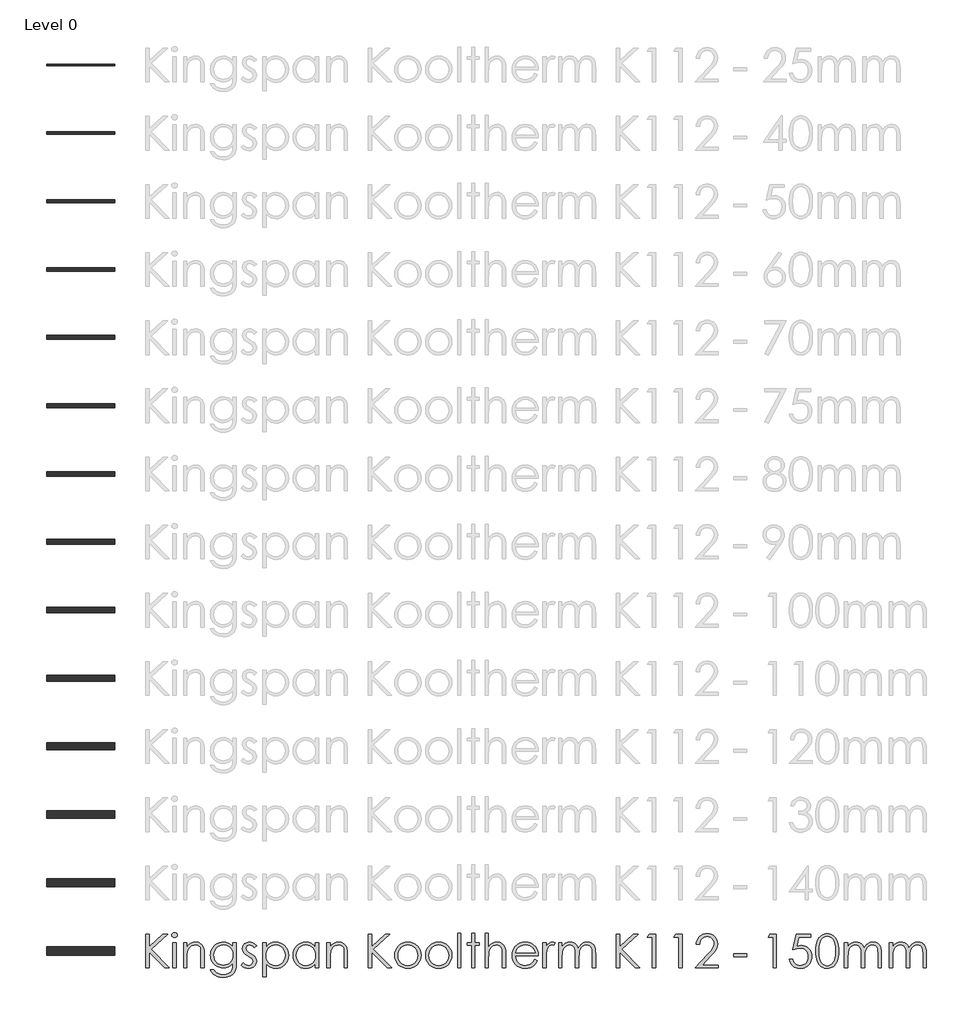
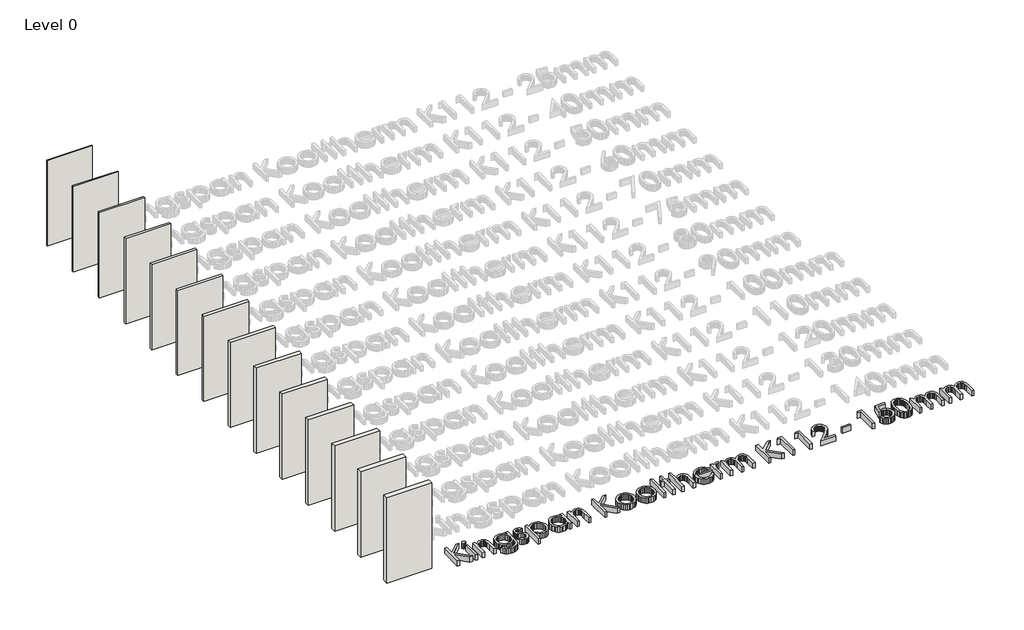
# One storey, part 1 of 14: 14 walls, 1 proxy.
"""IFC4 building model written with IfcOpenShell, lengths in millimetres."""

from ifc_helpers import new_model, si_unit, origin, origin_with_axes, place, context, project, spatial, polyline, outline, extrude, element, save

model = new_model("IFC4")

# Units and contexts
model_context = context("Model", 3, world=origin())
ifc_project = project(units=[si_unit("LENGTHUNIT", "METRE", prefix="MILLI")], contexts=[model_context])

# Site, building, storey
site = spatial("IfcSite", under=ifc_project)
building = spatial("IfcBuilding", under=site)
storey = spatial("IfcBuildingStorey", under=building, Name="Level 0", Elevation=0.0)

# Proxy
placement = place(None, origin())
element("IfcBuildingElementProxy", 1, Name="600mm KI_CenturyGothic", ObjectType="600mm KI_CenturyGothic", at=placement, inside=storey, context=model_context, shape_type="SweptSolid", body=[
    extrude(outline(polyline([(-3852.2663848, -9699.1034017), (-3792.944575, -9699.1034017), (-3792.944575, -9918.316027), (-3555.1938841, -9699.1034017), (-3471.6181051, -9699.1034017), (-3760.9664119, -9966.0515459), (-3441.9572002, -10292.3214999), (-3520.8984627, -10292.3214999), (-3792.944575, -10014.0960325), (-3792.944575, -10292.3214999), (-3852.2663848, -10292.3214999), (-3852.2663848, -9699.1034017)])), origin_with_axes(), (0.0, 0.0, 1.0), 150.0),
    extrude(outline(polyline([(-3348.1854852, -9669.4424967), (-3329.145347, -9672.7252792), (-3313.1176445, -9682.5736265), (-3302.226531, -9697.0178693), (-3298.5961598, -9714.088338), (-3302.226531, -9730.9270809), (-3313.1176445, -9745.2940817), (-3329.145347, -9755.142429), (-3348.1854852, -9758.4252115), (-3366.9938975, -9755.142429), (-3382.9443581, -9745.2940817), (-3393.8354717, -9730.9270809), (-3397.4658428, -9714.088338), (-3393.8354717, -9697.0178693), (-3382.9443581, -9682.5736265), (-3366.9938975, -9672.7252792), (-3348.1854852, -9669.4424967)])), origin_with_axes(), (0.0, 0.0, 1.0), 150.0),
    extrude(outline(polyline([(-3377.6919062, -9847.4079262), (-3318.3700964, -9847.4079262), (-3318.3700964, -10292.3214999), (-3377.6919062, -10292.3214999), (-3377.6919062, -9847.4079262)])), origin_with_axes(), (0.0, 0.0, 1.0), 150.0),
    extrude(outline(polyline([(-3189.8395084, -9847.4079262), (-3130.5176986, -9847.4079262), (-3130.5176986, -9926.5036726), (-3096.9946967, -9886.9944204), (-3060.0730495, -9859.303185), (-3019.7141359, -9842.9665147), (-2975.879335, -9837.5209579), (-2953.4357238, -9839.0995901), (-2932.2955704, -9843.8354865), (-2912.4588747, -9851.7286472), (-2893.9256368, -9862.7790723), (-2877.212412, -9876.5039994), (-2862.835756, -9892.4206667), (-2841.0921499, -9930.8292213), (-2833.6238199, -9955.2087086), (-2828.2892984, -9985.5551357), (-2824.0216812, -10064.1488095), (-2824.0216812, -10292.3214999), (-2883.343491, -10292.3214999), (-2883.343491, -10079.1337458), (-2883.343491, -9976.092998), (-2884.7290183, -9955.2956057), (-2889.8125035, -9937.2403023), (-2898.2849788, -9921.9270877), (-2910.1464442, -9909.355962), (-2924.7403432, -9899.5558909), (-2941.4101193, -9892.5558401), (-2980.977303, -9886.9557994), (-3005.3471351, -9889.1137461), (-3028.4038541, -9895.5875862), (-3050.1474602, -9906.3773197), (-3070.5779533, -9921.4829466), (-3088.6622225, -9939.7651482), (-3103.3671568, -9960.084606), (-3114.6927562, -9982.44132), (-3122.6390208, -10006.8352901), (-3128.5480292, -10053.9142525), (-3130.5176986, -10128.4141035), (-3130.5176986, -10292.3214999), (-3189.8395084, -10292.3214999), (-3189.8395084, -9847.4079262)])), origin_with_axes(), (0.0, 0.0, 1.0), 150.0),
    extrude(outline(polyline([(-2319.7862977, -9847.4079262), (-2260.4644879, -9847.4079262), (-2260.4644879, -10198.395301), (-2264.5196897, -10278.6496765), (-2269.588692, -10309.4499001), (-2276.6852953, -10334.0321474), (-2289.9371156, -10362.6454585), (-2307.2924139, -10387.7732271), (-2328.7511904, -10409.4154531), (-2354.3134448, -10427.5721366), (-2383.3226209, -10441.9343098), (-2415.122162, -10452.1930049), (-2449.7120682, -10458.348222), (-2487.0923395, -10460.3999611), (-2541.0458345, -10456.3833802), (-2589.206184, -10444.3336376), (-2630.260275, -10425.5059147), (-2662.8949946, -10401.1553932), (-2690.2000204, -10367.8061856), (-2715.2650299, -10321.9824048), (-2655.94322, -10321.9824048), (-2642.4355358, -10343.151524), (-2627.0933555, -10361.3951046), (-2609.9166791, -10376.7131468), (-2590.9055067, -10389.1056506), (-2569.7894914, -10398.6691682), (-2546.2982864, -10405.5002523), (-2492.1903075, -10410.9651195), (-2438.5071593, -10405.6354257), (-2415.083541, -10398.9733084), (-2393.93856, -10389.6463441), (-2359.6624492, -10365.6047903), (-2336.8567664, -10336.1176798), (-2329.3884364, -10317.4782342), (-2324.0539149, -10293.7697863), (-2319.7862977, -10231.1458835), (-2319.7862977, -10208.4367532), (-2354.757586, -10244.2190818), (-2396.6420279, -10270.6165148), (-2443.392712, -10286.8952536), (-2492.9627269, -10292.3214999), (-2522.4063889, -10290.4242447), (-2550.9521133, -10284.7324793), (-2578.5999001, -10275.2462036), (-2605.3497494, -10261.9654175), (-2630.1540674, -10245.4742634), (-2651.9652601, -10226.3568832), (-2670.7833277, -10204.6132772), (-2686.6082702, -10180.2434451), (-2699.1456025, -10153.9280817), (-2708.1008399, -10126.3478816), (-2713.4739824, -10097.5028447), (-2715.2650299, -10067.392971), (-2713.3967404, -10037.1044753), (-2707.7918722, -10007.8780563), (-2698.4504251, -9979.713714), (-2685.3723991, -9952.6114483), (-2668.9971079, -9927.4257483), (-2649.7638648, -9905.0111029), (-2627.67267, -9885.367512), (-2602.7235235, -9868.4949758), (-2575.9833294, -9854.943843), (-2548.5189922, -9845.2644624), (-2520.3305117, -9839.456834), (-2491.4178881, -9837.5209579), (-2444.5320306, -9842.4644421), (-2400.8903346, -9857.2948945), (-2359.6045177, -9883.8661218), (-2319.7862977, -9924.0319306), (-2319.7862977, -9847.4079262)]), holes=[polyline([(-2484.1571458, -9886.9557994), (-2529.0154023, -9892.9806707), (-2570.5908765, -9911.0552847), (-2606.2187212, -9939.7699758), (-2633.2340897, -9977.7150788), (-2650.2659375, -10021.9940208), (-2655.94322, -10069.7102292), (-2653.0080263, -10105.6229036), (-2644.2024452, -10138.2817613), (-2629.5264766, -10167.6868023), (-2608.9801206, -10193.8380266), (-2583.7606272, -10215.296803), (-2555.0652466, -10230.6245004), (-2522.8939786, -10239.8211189), (-2487.2468234, -10242.8866584), (-2451.3244937, -10239.845257), (-2419.1001219, -10230.7210528), (-2390.573708, -10215.5140459), (-2365.7452519, -10194.2242363), (-2345.6382095, -10167.9812872), (-2331.2760363, -10137.9148621), (-2322.6587323, -10104.024961), (-2319.7862977, -10066.3115838), (-2325.0773706, -10017.6105407), (-2340.9505892, -9974.3936754), (-2366.4983608, -9938.1672056), (-2400.8130926, -9910.4373492), (-2440.9982119, -9892.8261869), (-2484.1571458, -9886.9557994)])]), origin_with_axes(), (0.0, 0.0, 1.0), 150.0),
    extrude(outline(polyline([(-1904.5336289, -9898.6965743), (-1940.9918246, -9936.390641), (-1962.9575012, -9914.7628978), (-1984.6721416, -9899.3145098), (-2006.1357456, -9890.045477), (-2027.3483133, -9886.9557994), (-2052.181597, -9891.6289368), (-2073.2300256, -9905.6483489), (-2087.5970264, -9925.8857371), (-2092.3860267, -9949.212803), (-2088.4466878, -9970.7633042), (-2076.628671, -9991.2324183), (-2052.0657341, -10013.400855), (-2010.2006027, -10039.122421), (-1958.3326401, -10071.9888664), (-1939.8428507, -10087.8138088), (-1926.315856, -10103.2332311), (-1909.9791857, -10135.9065716), (-1904.5336289, -10172.4420092), (-1906.9474396, -10198.5884059), (-1914.1888714, -10222.6492701), (-1926.2579245, -10244.624602), (-1943.1545989, -10264.5144015), (-1963.6719892, -10281.0055557), (-1986.6031901, -10292.7849515), (-2011.9482016, -10299.852589), (-2039.7070237, -10302.2084682), (-2077.4397114, -10298.3270607), (-2113.3958344, -10286.6828383), (-2145.4512394, -10268.2027042), (-2171.4817731, -10243.8135617), (-2135.7959969, -10203.3387852), (-2114.0041146, -10224.9665283), (-2091.5749863, -10240.4149163), (-2068.5086121, -10249.6839491), (-2044.8049918, -10252.7736267), (-2013.637869, -10247.1349651), (-1987.4914724, -10230.2189802), (-1969.7644472, -10205.6560434), (-1963.8554388, -10177.0765256), (-1967.7561567, -10153.2860081), (-1979.4583106, -10132.2762005), (-2005.0253927, -10110.5712154), (-2050.2119275, -10083.7682622), (-2099.762632, -10053.1032121), (-2117.441381, -10037.9444814), (-2130.3890611, -10022.9016136), (-2146.3781427, -9990.7689666), (-2151.7078365, -9954.310771), (-2149.5305794, -9930.2643896), (-2142.9988078, -9908.3325063), (-2132.1125219, -9888.5151211), (-2116.8717217, -9870.812234), (-2098.309518, -9856.2473007), (-2077.4590218, -9845.8437769), (-2054.3202332, -9839.6016627), (-2028.8931521, -9837.5209579), (-1997.9481, -9841.3444339), (-1966.9064954, -9852.814862), (-1935.7683384, -9871.9322421), (-1904.5336289, -9898.6965743)])), origin_with_axes(), (0.0, 0.0, 1.0), 150.0),
    extrude(outline(polyline([(-1795.7769776, -9847.4079262), (-1736.4551678, -9847.4079262), (-1736.4551678, -9928.5119631), (-1700.9238754, -9888.2689124), (-1660.4490989, -9859.9211205), (-1614.9922173, -9843.1209986), (-1564.5146096, -9837.5209579), (-1520.0618732, -9841.7596094), (-1478.9305402, -9854.4755637), (-1441.1206107, -9875.668821), (-1406.6320845, -9905.3393811), (-1377.9077381, -9940.9768811), (-1357.3903478, -9980.070958), (-1345.0799137, -10022.6216116), (-1340.9764356, -10068.628842), (-1345.0412927, -10115.5291824), (-1357.235864, -10158.7508754), (-1377.5601494, -10198.293921), (-1406.014149, -10234.1583192), (-1440.2130179, -10263.9302594), (-1477.7719111, -10285.1959309), (-1518.6908288, -10297.9553339), (-1562.9697708, -10302.2084682), (-1612.6170277, -10296.743601), (-1658.0545988, -10280.3489992), (-1699.3211052, -10253.1019049), (-1736.4551678, -10215.07956), (-1736.4551678, -10450.5129928), (-1795.7769776, -10450.5129928), (-1795.7769776, -9847.4079262)]), holes=[polyline([(-1568.5311905, -9886.9557994), (-1602.5852307, -9890.2530647), (-1633.8392507, -9900.1448607), (-1662.2932503, -9916.6311872), (-1687.9472295, -9939.7120444), (-1709.1694525, -9967.6977647), (-1724.3281832, -9998.8986808), (-1733.4234216, -10033.3147926), (-1736.4551678, -10070.9461002), (-1731.048232, -10119.8016272), (-1714.8274246, -10163.4819442), (-1688.5265441, -10200.3263495), (-1652.8793888, -10228.6741414), (-1611.4390881, -10246.7487554), (-1567.7587711, -10252.7736267), (-1525.0632888, -10246.7101344), (-1485.0326535, -10228.5196576), (-1450.2544701, -10199.4187567), (-1423.3163435, -10160.6239924), (-1406.05277, -10115.9588407), (-1400.2982454, -10069.2467775), (-1405.9948385, -10022.3029886), (-1423.0846177, -9977.8695627), (-1449.8103289, -9939.5189395), (-1484.414718, -9910.8235589), (-1524.7157001, -9892.9227393), (-1568.5311905, -9886.9557994)])]), origin_with_axes(), (0.0, 0.0, 1.0), 150.0),
    extrude(outline(polyline([(-807.0801472, -9847.4079262), (-807.0801472, -10292.3214999), (-866.401957, -10292.3214999), (-866.401957, -10216.4699149), (-903.4780882, -10254.3184655), (-944.8797679, -10281.0441767), (-990.4525125, -10296.9173953), (-1040.0418379, -10302.2084682), (-1084.3159523, -10297.9553339), (-1125.2203871, -10285.1959309), (-1162.7551422, -10263.9302594), (-1196.9202178, -10234.1583192), (-1225.340424, -10198.293921), (-1245.6405713, -10158.7508754), (-1257.8206597, -10115.5291824), (-1261.8806892, -10068.628842), (-1257.7820388, -10022.6216116), (-1245.4860875, -9980.070958), (-1224.9928353, -9940.9768811), (-1196.3022822, -9905.3393811), (-1161.8475494, -9875.668821), (-1124.061758, -9854.4755637), (-1082.9449079, -9841.7596094), (-1038.4969991, -9837.5209579), (-987.7490446, -9843.1209986), (-942.0990581, -9859.9211205), (-921.2051134, -9872.6081091), (-901.6242816, -9888.2689124), (-866.401957, -9928.5119631), (-866.401957, -9847.4079262), (-807.0801472, -9847.4079262)]), holes=[polyline([(-1034.3259343, -9886.9557994), (-1078.1414247, -9892.9227393), (-1118.4424068, -9910.8235589), (-1153.0467959, -9939.5189395), (-1179.7725071, -9977.8695627), (-1196.8622863, -10022.3029886), (-1202.5588794, -10069.2467775), (-1196.8043548, -10115.9588407), (-1179.5407813, -10160.6239924), (-1152.6026548, -10199.4187567), (-1117.8244713, -10228.5196576), (-1077.6779731, -10246.7101344), (-1034.6349021, -10252.7736267), (-991.0125165, -10246.7487554), (-949.7460102, -10228.6741414), (-914.2726493, -10200.3263495), (-888.0297002, -10163.4819442), (-871.8088928, -10119.8016272), (-866.401957, -10070.9461002), (-869.4337032, -10033.3147926), (-878.5289416, -9998.8986808), (-893.6876723, -9967.6977647), (-914.9098953, -9939.7120444), (-940.5638746, -9916.6311872), (-969.0178742, -9900.1448607), (-1000.2718941, -9890.2530647), (-1034.3259343, -9886.9557994)])]), origin_with_axes(), (0.0, 0.0, 1.0), 150.0),
    extrude(outline(polyline([(-668.662591, -9847.4079262), (-609.3407811, -9847.4079262), (-609.3407811, -9926.5036726), (-575.8177792, -9886.9944204), (-538.896132, -9859.303185), (-498.5372184, -9842.9665147), (-454.7024175, -9837.5209579), (-432.2588064, -9839.0995901), (-411.1186529, -9843.8354865), (-391.2819572, -9851.7286472), (-372.7487193, -9862.7790723), (-356.0354946, -9876.5039994), (-341.6588385, -9892.4206667), (-319.9152324, -9930.8292213), (-312.4469024, -9955.2087086), (-307.1123809, -9985.5551357), (-302.8447637, -10064.1488095), (-302.8447637, -10292.3214999), (-362.1665735, -10292.3214999), (-362.1665735, -10079.1337458), (-362.1665735, -9976.092998), (-363.5521008, -9955.2956057), (-368.635586, -9937.2403023), (-377.1080613, -9921.9270877), (-388.9695267, -9909.355962), (-403.5634257, -9899.5558909), (-420.2332018, -9892.5558401), (-459.8003855, -9886.9557994), (-484.1702176, -9889.1137461), (-507.2269366, -9895.5875862), (-528.9705427, -9906.3773197), (-549.4010358, -9921.4829466), (-567.485305, -9939.7651482), (-582.1902393, -9960.084606), (-593.5158387, -9982.44132), (-601.4621033, -10006.8352901), (-607.3711117, -10053.9142525), (-609.3407811, -10128.4141035), (-609.3407811, -10292.3214999), (-668.662591, -10292.3214999), (-668.662591, -9847.4079262)])), origin_with_axes(), (0.0, 0.0, 1.0), 150.0),
    extrude(outline(polyline([(62.9730635, -9699.1034017), (122.2948734, -9699.1034017), (122.2948734, -9918.316027), (360.0455643, -9699.1034017), (443.6213432, -9699.1034017), (154.2730365, -9966.0515459), (473.2822481, -10292.3214999), (394.3409856, -10292.3214999), (122.2948734, -10014.0960325), (122.2948734, -10292.3214999), (62.9730635, -10292.3214999), (62.9730635, -9699.1034017)])), origin_with_axes(), (0.0, 0.0, 1.0), 150.0),
    extrude(outline(polyline([(760.1588128, -9837.5209579), (809.4681362, -9842.1458191), (854.3553585, -9856.0204025), (894.8204798, -9879.1447083), (930.8635, -9911.5187363), (957.7630055, -9946.7507161), (976.9769381, -9985.091684), (988.5052976, -10026.54164), (992.3480841, -10071.1005841), (988.283227, -10115.9153921), (976.0886558, -10157.8239721), (955.7643703, -10196.8263241), (927.3103707, -10232.9224481), (892.4742558, -10263.2350819), (853.0036246, -10284.8869632), (808.8984769, -10297.8780919), (760.1588128, -10302.2084682), (711.2839754, -10297.8780919), (667.0822753, -10284.8869632), (627.5537126, -10263.2350819), (592.6982872, -10232.9224481), (564.2442876, -10196.8263241), (543.9200022, -10157.8239721), (531.7254309, -10115.9153921), (527.6605738, -10071.1005841), (531.5033603, -10026.7347449), (543.0317198, -9985.4006518), (562.2456524, -9947.0983049), (589.145158, -9911.8277041), (625.2074886, -9879.3185026), (665.7305413, -9856.0976445), (710.7143161, -9842.1651295), (760.1588128, -9837.5209579)]), holes=[polyline([(760.004329, -9886.9557994), (725.7282181, -9890.3303067), (693.9624704, -9900.4538284), (664.7070856, -9917.3263647), (637.962064, -9940.9479154), (615.6584538, -9969.3584664), (599.7273037, -10000.5980035), (590.1686137, -10034.6665266), (586.9823836, -10071.5640357), (592.7948396, -10119.2995546), (610.2322075, -10163.6364281), (637.5758543, -10201.4270471), (673.1071466, -10229.5238028), (714.6439998, -10246.9611707), (760.004329, -10252.7736267), (805.3646581, -10246.9611707), (846.9015113, -10229.5238028), (882.4328037, -10201.4270471), (909.7764504, -10163.6364281), (927.2138183, -10119.2995546), (933.0262743, -10071.5640357), (929.8255614, -10034.6665266), (920.2234227, -10000.5980035), (904.2198583, -9969.3584664), (881.8148681, -9940.9479154), (854.9974321, -9917.3263647), (825.7565303, -9900.4538284), (794.0921625, -9890.3303067), (760.004329, -9886.9557994)])]), origin_with_axes(), (0.0, 0.0, 1.0), 150.0),
    extrude(outline(polyline([(1303.9420695, -9837.5209579), (1353.2513929, -9842.1458191), (1398.1386152, -9856.0204025), (1438.6037365, -9879.1447083), (1474.6467567, -9911.5187363), (1501.5462622, -9946.7507161), (1520.7601948, -9985.091684), (1532.2885543, -10026.54164), (1536.1313408, -10071.1005841), (1532.0664837, -10115.9153921), (1519.8719125, -10157.8239721), (1499.547627, -10196.8263241), (1471.0936274, -10232.9224481), (1436.2575126, -10263.2350819), (1396.7868813, -10284.8869632), (1352.6817336, -10297.8780919), (1303.9420695, -10302.2084682), (1255.0672321, -10297.8780919), (1210.865532, -10284.8869632), (1171.3369693, -10263.2350819), (1136.4815439, -10232.9224481), (1108.0275443, -10196.8263241), (1087.7032589, -10157.8239721), (1075.5086876, -10115.9153921), (1071.4438305, -10071.1005841), (1075.286617, -10026.7347449), (1086.8149766, -9985.4006518), (1106.0289091, -9947.0983049), (1132.9284147, -9911.8277041), (1168.9907453, -9879.3185026), (1209.5137981, -9856.0976445), (1254.4975728, -9842.1651295), (1303.9420695, -9837.5209579)]), holes=[polyline([(1303.7875857, -9886.9557994), (1269.5114748, -9890.3303067), (1237.7457271, -9900.4538284), (1208.4903423, -9917.3263647), (1181.7453207, -9940.9479154), (1159.4417105, -9969.3584664), (1143.5105604, -10000.5980035), (1133.9518704, -10034.6665266), (1130.7656404, -10071.5640357), (1136.5780963, -10119.2995546), (1154.0154643, -10163.6364281), (1181.359111, -10201.4270471), (1216.8904033, -10229.5238028), (1258.4272565, -10246.9611707), (1303.7875857, -10252.7736267), (1349.1479149, -10246.9611707), (1390.684768, -10229.5238028), (1426.2160604, -10201.4270471), (1453.5597071, -10163.6364281), (1470.997075, -10119.2995546), (1476.809531, -10071.5640357), (1473.6088181, -10034.6665266), (1464.0066795, -10000.5980035), (1448.003115, -9969.3584664), (1425.5981249, -9940.9479154), (1398.7806889, -9917.3263647), (1369.539787, -9900.4538284), (1337.8754193, -9890.3303067), (1303.7875857, -9886.9557994)])]), origin_with_axes(), (0.0, 0.0, 1.0), 150.0),
    extrude(outline(polyline([(1635.0010238, -9679.3294651), (1694.3228337, -9679.3294651), (1694.3228337, -10292.3214999), (1635.0010238, -10292.3214999), (1635.0010238, -9679.3294651)])), origin_with_axes(), (0.0, 0.0, 1.0), 150.0),
    extrude(outline(polyline([(1882.1752314, -9679.3294651), (1941.4970413, -9679.3294651), (1941.4970413, -9847.4079262), (2020.5927877, -9847.4079262), (2020.5927877, -9896.8427677), (1941.4970413, -9896.8427677), (1941.4970413, -10292.3214999), (1882.1752314, -10292.3214999), (1882.1752314, -9896.8427677), (1803.079485, -9896.8427677), (1803.079485, -9847.4079262), (1882.1752314, -9847.4079262), (1882.1752314, -9679.3294651)])), origin_with_axes(), (0.0, 0.0, 1.0), 150.0),
    extrude(outline(polyline([(2119.4624707, -9679.3294651), (2178.7842806, -9679.3294651), (2178.7842806, -9928.0485114), (2212.5583188, -9888.3461544), (2249.6151394, -9860.0756044), (2289.9161216, -9843.1596195), (2333.4226442, -9837.5209579), (2355.8662553, -9839.0995901), (2377.0064088, -9843.8354865), (2396.8431044, -9851.7286472), (2415.3763424, -9862.7790723), (2432.0895671, -9876.4895166), (2446.4662232, -9892.3627352), (2468.2098293, -9930.5974955), (2475.6781593, -9954.9045684), (2481.0126808, -9985.2654784), (2485.280298, -10064.1488095), (2485.280298, -10292.3214999), (2425.9584882, -10292.3214999), (2425.9584882, -10079.1337458), (2424.5681332, -10014.752589), (2420.3970685, -9976.092998), (2406.879729, -9937.2403023), (2397.1665551, -9921.9270877), (2385.4837117, -9909.355962), (2371.840854, -9899.5558909), (2356.2476374, -9892.5558401), (2319.2101273, -9886.9557994), (2296.3416854, -9889.1137461), (2274.6994594, -9895.5875862), (2254.2834492, -9906.3773197), (2235.0936547, -9921.4829466), (2218.1052556, -9939.7651482), (2204.2934312, -9960.084606), (2193.6581816, -9982.44132), (2186.1995068, -10006.8352901), (2180.6380871, -10053.6825267), (2178.7842806, -10128.4141035), (2178.7842806, -10292.3214999), (2119.4624707, -10292.3214999), (2119.4624707, -9679.3294651)])), origin_with_axes(), (0.0, 0.0, 1.0), 150.0),
    extrude(outline(polyline([(2991.0605203, -10144.0169753), (3038.950523, -10169.1978477), (3013.3255094, -10211.0822896), (2984.0315038, -10244.0452875), (2950.952643, -10269.1296074), (2913.9730643, -10287.3780157), (2872.4941426, -10298.5008551), (2825.9172528, -10302.2084682), (2774.4258447, -10297.7767119), (2728.8627554, -10284.481443), (2689.227985, -10262.3226615), (2655.5215335, -10231.3003674), (2628.6220279, -10194.6973431), (2609.4080954, -10155.7963712), (2597.8797358, -10114.5974515), (2594.0369493, -10071.1005841), (2597.3197318, -10030.2202874), (2607.1680791, -9991.618628), (2623.5819913, -9955.2956057), (2646.5614684, -9921.2512207), (2682.7493173, -9884.6192308), (2724.5758277, -9858.4535236), (2772.0409998, -9842.7540993), (2825.1448334, -9837.5209579), (2879.7935059, -9842.8892727), (2928.6490329, -9858.9942172), (2971.7114143, -9885.8357913), (3008.9806503, -9923.4139951), (3030.4539096, -9955.585263), (3045.9022976, -9991.541386), (3055.3258143, -10031.2823641), (3058.7244596, -10074.8081972), (2653.3587591, -10074.8081972), (2657.095338, -10112.0629503), (2666.6057518, -10145.8128504), (2681.8900007, -10176.0578975), (2702.9480845, -10202.7980916), (2728.3124066, -10224.6623882), (2756.5153699, -10240.2797429), (2787.5569744, -10249.6501557), (2821.4372203, -10252.7736267), (2854.9602222, -10249.761191), (2887.5563208, -10240.7238841), (2917.2944677, -10226.6851615), (2942.2436143, -10208.668479), (2965.725164, -10182.5027719), (2991.0605203, -10144.0169753)]), holes=[polyline([(2999.4026498, -10025.3733557), (2984.9777175, -9982.8516678), (2965.1844704, -9949.8307385), (2939.0766947, -9924.3022774), (2905.7081767, -9904.257994), (2867.7630738, -9891.2813481), (2827.9255433, -9886.9557994), (2795.503239, -9889.6689226), (2765.4368139, -9897.808292), (2737.726268, -9911.3739077), (2712.3716012, -9930.3657696), (2695.8321708, -9948.179692), (2681.4362043, -9969.9522638), (2669.1837016, -9995.683485), (2659.0746627, -10025.3733557), (2999.4026498, -10025.3733557)])]), origin_with_axes(), (0.0, 0.0, 1.0), 150.0),
    extrude(outline(polyline([(3137.820206, -9847.4079262), (3197.1420159, -9847.4079262), (3197.1420159, -9911.8277041), (3222.6897875, -9878.7874643), (3249.589293, -9855.6728138), (3277.7632906, -9842.0589219), (3307.1345382, -9837.5209579), (3330.4616041, -9841.305813), (3355.3335087, -9852.6603781), (3325.8270877, -9894.6799934), (3297.2475699, -9886.9557994), (3270.8308265, -9892.9034288), (3245.3409863, -9910.7463169), (3223.2884125, -9941.1023993), (3207.183468, -9984.5896114), (3199.6523789, -10042.7141712), (3197.1420159, -10140.1548783), (3197.1420159, -10292.3214999), (3137.820206, -10292.3214999), (3137.820206, -9847.4079262)])), origin_with_axes(), (0.0, 0.0, 1.0), 150.0),
    extrude(outline(polyline([(3414.6553185, -9847.4079262), (3473.9771284, -9847.4079262), (3473.9771284, -9923.5684789), (3503.5607913, -9887.0716623), (3533.9168737, -9861.9294109), (3577.3268439, -9843.6230712), (3622.8995884, -9837.5209579), (3653.7384329, -9840.668567), (3682.9165757, -9850.1113941), (3708.6767627, -9864.7873627), (3729.2617397, -9883.634396), (3746.0425511, -9909.0663047), (3760.3902414, -9943.4968994), (3775.16759, -9919.0981017), (3791.6925376, -9897.808292), (3809.965084, -9879.6274704), (3829.9852293, -9864.5556369), (3851.2798666, -9852.7279648), (3873.375889, -9844.2796277), (3896.2732965, -9839.2106253), (3919.9720892, -9837.5209579), (3962.3006723, -9843.3334139), (3981.4952943, -9850.5989839), (3999.3768034, -9860.7707818), (4015.4914031, -9873.53984), (4029.385297, -9888.5971907), (4050.5109676, -9925.5767694), (4057.8103309, -9948.9521114), (4063.0241619, -9977.5219739), (4067.1952266, -10050.2452603), (4067.1952266, -10292.3214999), (4007.8734168, -10292.3214999), (4007.8734168, -10046.6921311), (4005.4209852, -9985.5744462), (3998.0636904, -9947.1272706), (3984.7587663, -9922.6608861), (3964.4634466, -9903.4855746), (3938.3942919, -9891.0882432), (3907.7678627, -9886.9557994), (3888.1194443, -9888.5054659), (3869.3399976, -9893.1544651), (3834.3880198, -9911.7504621), (3805.6540182, -9940.6968791), (3785.8800816, -9977.9468046), (3779.1889985, -10002.1042213), (3774.4096535, -10033.1747916), (3770.5861775, -10116.0553931), (3770.5861775, -10292.3214999), (3711.2643677, -10292.3214999), (3711.2643677, -10061.9860352), (3708.850557, -9993.530366), (3701.6091252, -9951.2983353), (3688.3621325, -9925.0553863), (3667.9316394, -9904.5669617), (3641.6114484, -9891.35859), (3610.6953619, -9886.9557994), (3573.7544042, -9892.9999812), (3539.2465676, -9911.1325266), (3510.2808401, -9939.499629), (3489.9662099, -9976.2474819), (3477.9743988, -10028.0768236), (3473.9771284, -10101.6883923), (3473.9771284, -10292.3214999), (3414.6553185, -10292.3214999), (3414.6553185, -9847.4079262)])), origin_with_axes(), (0.0, 0.0, 1.0), 150.0),
    extrude(outline(polyline([(4433.0130538, -9699.1034017), (4492.3348637, -9699.1034017), (4492.3348637, -9918.316027), (4730.0855546, -9699.1034017), (4813.6613335, -9699.1034017), (4524.3130268, -9966.0515459), (4843.3222385, -10292.3214999), (4764.3809759, -10292.3214999), (4492.3348637, -10014.0960325), (4492.3348637, -10292.3214999), (4433.0130538, -10292.3214999), (4433.0130538, -9699.1034017)])), origin_with_axes(), (0.0, 0.0, 1.0), 150.0),
    extrude(outline(polyline([(5010.6282802, -9699.1034017), (5125.1008351, -9699.1034017), (5125.1008351, -10292.3214999), (5065.7790253, -10292.3214999), (5065.7790253, -9748.5382432), (4976.7963106, -9748.5382432), (5010.6282802, -9699.1034017)])), origin_with_axes(), (0.0, 0.0, 1.0), 150.0),
    extrude(outline(polyline([(5475.3157905, -9699.1034017), (5589.7883454, -9699.1034017), (5589.7883454, -10292.3214999), (5530.4665356, -10292.3214999), (5530.4665356, -9748.5382432), (5441.4838208, -9748.5382432), (5475.3157905, -9699.1034017)])), origin_with_axes(), (0.0, 0.0, 1.0), 150.0),
    extrude(outline(polyline([(5896.2843628, -9877.0688311), (5836.962553, -9877.0688311), (5841.4474131, -9837.8106152), (5852.5847353, -9802.2213914), (5870.3745196, -9770.3011597), (5894.816766, -9742.0499202), (5924.2121517, -9718.9352697), (5956.8613542, -9702.4248051), (5992.7643733, -9692.5185263), (6031.9212092, -9689.2164334), (6070.3925229, -9692.5136987), (6105.0113948, -9702.4054946), (6135.777825, -9718.8918211), (6162.6918135, -9741.9726783), (6184.5561101, -9769.533568), (6200.1734648, -9799.459992), (6209.5438776, -9831.7519505), (6212.6673485, -9866.4094434), (6206.5845458, -9915.2070389), (6188.3361375, -9960.8763359), (6152.5538088, -10012.763609), (6093.869245, -10080.215133), (5941.084688, -10242.8866584), (6222.5543169, -10242.8866584), (6222.5543169, -10292.3214999), (5817.1886164, -10292.3214999), (6043.1985325, -10051.6356152), (6099.9327373, -9986.1151397), (6132.6446988, -9940.0210121), (6148.1703288, -9902.6552237), (6153.3455387, -9863.3197658), (6151.0958672, -9838.7133804), (6144.3468527, -9815.8739043), (6133.0984952, -9794.8013375), (6117.3507947, -9775.4956802), (6098.3396223, -9759.3762529), (6077.3008489, -9747.8623762), (6054.2344746, -9740.9540502), (6029.1404994, -9738.6512749), (6002.8058255, -9740.9250845), (5978.7980651, -9747.7465133), (5957.1172181, -9759.1155613), (5937.7632845, -9775.0322286), (5921.5279943, -9795.0523738), (5909.2030773, -9818.731856), (5900.7885334, -9846.0706751), (5896.2843628, -9877.0688311)])), origin_with_axes(), (0.0, 0.0, 1.0), 150.0),
    extrude(outline(polyline([(6499.3894294, -10045.1472923), (6726.7897004, -10045.1472923), (6726.7897004, -10094.5821338), (6499.3894294, -10094.5821338), (6499.3894294, -10045.1472923)])), origin_with_axes(), (0.0, 0.0, 1.0), 150.0),
    extrude(outline(polyline([(7136.3264656, -9699.1034017), (7250.7990205, -9699.1034017), (7250.7990205, -10292.3214999), (7191.4772106, -10292.3214999), (7191.4772106, -9748.5382432), (7102.4944959, -9748.5382432), (7136.3264656, -9699.1034017)])), origin_with_axes(), (0.0, 0.0, 1.0), 150.0),
    extrude(outline(polyline([(7853.904087, -9699.1034017), (7853.904087, -9748.5382432), (7646.5867204, -9748.5382432), (7612.1368152, -9909.5104459), (7649.7150189, -9900.0096873), (7683.3538838, -9896.8427677), (7722.9403779, -9900.2655512), (7758.8965009, -9910.5339016), (7791.2222528, -9927.6478189), (7819.9176335, -9951.6073031), (7843.4378041, -9980.9157917), (7860.2379261, -10014.076722), (7870.3179992, -10051.090094), (7873.6780236, -10091.9559079), (7871.9545628, -10120.9216353), (7866.7841805, -10148.6514917), (7858.1668766, -10175.1454771), (7846.1026511, -10200.4035914), (7831.0984042, -10223.6051391), (7813.6610363, -10243.9294246), (7793.7905473, -10261.3764477), (7771.4869371, -10275.9462086), (7747.054346, -10287.4359472), (7720.7969141, -10295.6429033), (7692.7146413, -10300.567077), (7662.8075277, -10302.2084682), (7627.4741679, -10299.4518965), (7595.008415, -10291.1821813), (7565.4102692, -10277.3993226), (7538.6797304, -10258.1033205), (7515.9271515, -10234.4334936), (7498.2628853, -10207.5291604), (7485.686932, -10177.390321), (7478.1992914, -10144.0169753), (7537.5211013, -10144.0169753), (7547.0991018, -10176.7482474), (7561.6205865, -10202.6436077), (7581.4524546, -10222.9582379), (7606.9616052, -10238.9473194), (7635.9852641, -10249.3170499), (7666.360657, -10252.7736267), (7695.6498351, -10249.8480882), (7722.8052045, -10241.0714728), (7747.8267654, -10226.4437804), (7770.7145178, -10205.9650111), (7789.8077598, -10181.0931065), (7803.4457898, -10153.2860081), (7811.6286078, -10122.543716), (7814.3562138, -10088.8662303), (7811.8941269, -10058.6791146), (7804.5078664, -10031.4561585), (7792.1974323, -10007.1973617), (7774.9628244, -9985.9027244), (7753.6054281, -9968.5667365), (7728.9266283, -9956.183888), (7700.9264251, -9948.754179), (7669.6048185, -9946.2776093), (7640.8997825, -9948.1314158), (7609.3174844, -9953.6928355), (7537.5211013, -9975.9385142), (7596.8429111, -9699.1034017), (7853.904087, -9699.1034017)])), origin_with_axes(), (0.0, 0.0, 1.0), 150.0),
    extrude(outline(polyline([(7942.8868017, -9995.8669347), (7944.4654339, -9941.4355052), (7949.2013303, -9893.5406748), (7957.094491, -9852.1824436), (7968.1449161, -9817.3608116), (7982.0726034, -9787.7192172), (7998.5975509, -9761.9010988), (8017.7197586, -9739.9064564), (8039.4392266, -9721.73529), (8063.1331916, -9707.5082902), (8088.1788906, -9697.3461475), (8114.5763236, -9691.2488619), (8142.3254905, -9689.2164334), (8170.5284538, -9691.2633448), (8197.3603726, -9697.404079), (8222.8212471, -9707.638636), (8246.9110771, -9721.9670159), (8269.0939967, -9740.3843909), (8288.8341399, -9762.8859335), (8306.1315069, -9789.4716437), (8320.9860974, -9820.1415214), (8332.9151495, -9855.6583309), (8341.435901, -9896.7848363), (8346.5483519, -9943.5210375), (8348.2525022, -9995.8669347), (8346.57249, -10048.0535203), (8341.5324534, -10094.6207548), (8333.1323925, -10135.5686382), (8321.3723071, -10170.8971704), (8306.6625452, -10201.4222195), (8289.4134545, -10227.9596535), (8269.625035, -10250.5094723), (8247.2972868, -10269.071676), (8223.03849, -10283.5690226), (8197.4569251, -10293.9242701), (8170.5525919, -10300.1374187), (8142.3254905, -10302.2084682), (8114.6004617, -10300.2001778), (8088.2754431, -10294.1753064), (8063.3504346, -10284.1338543), (8039.8254363, -10270.0758212), (8018.2507969, -10252.0398282), (7999.1768654, -10230.0644964), (7982.6036417, -10204.1498255), (7968.5311258, -10174.2958158), (7957.311734, -10139.2762513), (7949.2978827, -10097.8649163), (7944.489572, -10050.0618107), (7942.8868017, -9995.8669347)]), holes=[polyline([(8002.2086116, -9995.7124508), (8006.5920916, -10084.038609), (8012.0714418, -10119.0195525), (8019.7425319, -10147.8790723), (8029.5570859, -10172.1185586), (8041.4668275, -10193.2394015), (8055.4717567, -10211.2416011), (8071.5718736, -10226.1251574), (8106.8714401, -10246.1115094), (8125.2743323, -10251.1080973), (8144.179297, -10252.7736267), (8163.171159, -10251.1418907), (8181.525775, -10246.2466828), (8216.3232689, -10226.665851), (8232.0806246, -10211.9898824), (8245.8296899, -10194.0697524), (8257.5704648, -10172.9054608), (8267.3029492, -10148.4970078), (8276.7650868, -10115.1381451), (8283.5237566, -10078.5544313), (8288.9306924, -9995.7124508), (8284.1030711, -9914.1063413), (8278.0685446, -9879.4150551), (8269.6202074, -9848.7982811), (8259.0380616, -9822.135329), (8246.6021093, -9799.3055082), (8232.3123504, -9780.3088186), (8216.168785, -9765.1452603), (8181.1009443, -9745.2747712), (8162.8718465, -9740.307149), (8144.179297, -9738.6512749), (8125.163297, -9740.307149), (8106.7362667, -9745.2747712), (8071.6491155, -9765.1452603), (8055.7034825, -9779.9564022), (8041.7757953, -9797.8958428), (8029.8660536, -9818.9635819), (8019.9742577, -9843.1596195), (8012.2017875, -9872.0143117), (8006.6500231, -9907.0580143), (8002.2086116, -9995.7124508)])]), origin_with_axes(), (0.0, 0.0, 1.0), 150.0),
    extrude(outline(polyline([(8447.1221852, -9847.4079262), (8506.4439951, -9847.4079262), (8506.4439951, -9923.5684789), (8536.027658, -9887.0716623), (8566.3837404, -9861.9294109), (8609.7937106, -9843.6230712), (8655.3664551, -9837.5209579), (8686.2052996, -9840.668567), (8715.3834424, -9850.1113941), (8741.1436294, -9864.7873627), (8761.7286063, -9883.634396), (8778.5094178, -9909.0663047), (8792.8571081, -9943.4968994), (8807.6344567, -9919.0981017), (8824.1594042, -9897.808292), (8842.4319506, -9879.6274704), (8862.4520959, -9864.5556369), (8883.7467332, -9852.7279648), (8905.8427557, -9844.2796277), (8928.7401632, -9839.2106253), (8952.4389559, -9837.5209579), (8994.7675389, -9843.3334139), (9013.962161, -9850.5989839), (9031.8436701, -9860.7707818), (9047.9582698, -9873.53984), (9061.8521637, -9888.5971907), (9082.9778343, -9925.5767694), (9090.2771976, -9948.9521114), (9095.4910285, -9977.5219739), (9099.6620933, -10050.2452603), (9099.6620933, -10292.3214999), (9040.3402835, -10292.3214999), (9040.3402835, -10046.6921311), (9037.8878519, -9985.5744462), (9030.5305571, -9947.1272706), (9017.225633, -9922.6608861), (8996.9303133, -9903.4855746), (8970.8611585, -9891.0882432), (8940.2347294, -9886.9557994), (8920.5863109, -9888.5054659), (8901.8068643, -9893.1544651), (8866.8548865, -9911.7504621), (8838.1208849, -9940.6968791), (8818.3469483, -9977.9468046), (8811.6558652, -10002.1042213), (8806.8765202, -10033.1747916), (8803.0530442, -10116.0553931), (8803.0530442, -10292.3214999), (8743.7312343, -10292.3214999), (8743.7312343, -10061.9860352), (8741.3174237, -9993.530366), (8734.0759919, -9951.2983353), (8720.8289992, -9925.0553863), (8700.3985061, -9904.5669617), (8674.0783151, -9891.35859), (8643.1622286, -9886.9557994), (8606.2212709, -9892.9999812), (8571.7134342, -9911.1325266), (8542.7477068, -9939.499629), (8522.4330766, -9976.2474819), (8510.4412654, -10028.0768236), (8506.4439951, -10101.6883923), (8506.4439951, -10292.3214999), (8447.1221852, -10292.3214999), (8447.1221852, -9847.4079262)])), origin_with_axes(), (0.0, 0.0, 1.0), 150.0),
    extrude(outline(polyline([(9238.0796495, -9847.4079262), (9297.4014594, -9847.4079262), (9297.4014594, -9923.5684789), (9326.9851223, -9887.0716623), (9357.3412047, -9861.9294109), (9400.7511749, -9843.6230712), (9446.3239194, -9837.5209579), (9477.1627639, -9840.668567), (9506.3409067, -9850.1113941), (9532.1010937, -9864.7873627), (9552.6860706, -9883.634396), (9569.4668821, -9909.0663047), (9583.8145724, -9943.4968994), (9598.591921, -9919.0981017), (9615.1168685, -9897.808292), (9633.389415, -9879.6274704), (9653.4095602, -9864.5556369), (9674.7041975, -9852.7279648), (9696.80022, -9844.2796277), (9719.6976275, -9839.2106253), (9743.3964202, -9837.5209579), (9785.7250032, -9843.3334139), (9804.9196253, -9850.5989839), (9822.8011344, -9860.7707818), (9838.9157341, -9873.53984), (9852.809628, -9888.5971907), (9873.9352986, -9925.5767694), (9881.2346619, -9948.9521114), (9886.4484928, -9977.5219739), (9890.6195576, -10050.2452603), (9890.6195576, -10292.3214999), (9831.2977478, -10292.3214999), (9831.2977478, -10046.6921311), (9828.8453162, -9985.5744462), (9821.4880214, -9947.1272706), (9808.1830973, -9922.6608861), (9787.8877776, -9903.4855746), (9761.8186229, -9891.0882432), (9731.1921937, -9886.9557994), (9711.5437752, -9888.5054659), (9692.7643286, -9893.1544651), (9657.8123508, -9911.7504621), (9629.0783492, -9940.6968791), (9609.3044126, -9977.9468046), (9602.6133295, -10002.1042213), (9597.8339845, -10033.1747916), (9594.0105085, -10116.0553931), (9594.0105085, -10292.3214999), (9534.6886987, -10292.3214999), (9534.6886987, -10061.9860352), (9532.274888, -9993.530366), (9525.0334562, -9951.2983353), (9511.7864635, -9925.0553863), (9491.3559704, -9904.5669617), (9465.0357794, -9891.35859), (9434.1196929, -9886.9557994), (9397.1787352, -9892.9999812), (9362.6708986, -9911.1325266), (9333.7051711, -9939.499629), (9313.3905409, -9976.2474819), (9301.3987298, -10028.0768236), (9297.4014594, -10101.6883923), (9297.4014594, -10292.3214999), (9238.0796495, -10292.3214999), (9238.0796495, -9847.4079262)])), origin_with_axes(), (0.0, 0.0, 1.0), 150.0),
])

# Walls
element("IfcWall", 2, ObjectType="KingspanInsulation_Insulation_Kooltherm-K112-FramingBoard-25", at=placement, inside=storey, context=model_context, shape_type="SweptSolid", body=[
    extrude(outline(polyline([(-5601.4751629, 5620.1785001), (-4401.4751629, 5620.1785001), (-4401.4751629, 5595.1785001), (-5601.4751629, 5595.1785001), (-5601.4751629, 5620.1785001)])), origin_with_axes(), (0.0, 0.0, 1.0), 2400.0),
])
element("IfcWall", 3, ObjectType="KingspanInsulation_Insulation_Kooltherm-K112-FramingBoard-40", at=placement, inside=storey, context=model_context, shape_type="SweptSolid", body=[
    extrude(outline(polyline([(-5601.4751629, 4427.6785001), (-4401.4751629, 4427.6785001), (-4401.4751629, 4387.6785001), (-5601.4751629, 4387.6785001), (-5601.4751629, 4427.6785001)])), origin_with_axes(), (0.0, 0.0, 1.0), 2400.0),
])
element("IfcWall", 4, ObjectType="KingspanInsulation_Insulation_Kooltherm-K112-FramingBoard-50", at=placement, inside=storey, context=model_context, shape_type="SweptSolid", body=[
    extrude(outline(polyline([(-5601.4751629, 3232.6785001), (-4401.4751629, 3232.6785001), (-4401.4751629, 3182.6785001), (-5601.4751629, 3182.6785001), (-5601.4751629, 3232.6785001)])), origin_with_axes(), (0.0, 0.0, 1.0), 2400.0),
])
element("IfcWall", 5, ObjectType="KingspanInsulation_Insulation_Kooltherm-K112-FramingBoard-60", at=placement, inside=storey, context=model_context, shape_type="SweptSolid", body=[
    extrude(outline(polyline([(-5601.4751629, 2037.6785001), (-4401.4751629, 2037.6785001), (-4401.4751629, 1977.6785001), (-5601.4751629, 1977.6785001), (-5601.4751629, 2037.6785001)])), origin_with_axes(), (0.0, 0.0, 1.0), 2400.0),
])
element("IfcWall", 6, ObjectType="KingspanInsulation_Insulation_Kooltherm-K112-FramingBoard-70", at=placement, inside=storey, context=model_context, shape_type="SweptSolid", body=[
    extrude(outline(polyline([(-5601.4751629, 842.6785001), (-4401.4751629, 842.6785001), (-4401.4751629, 772.6785001), (-5601.4751629, 772.6785001), (-5601.4751629, 842.6785001)])), origin_with_axes(), (0.0, 0.0, 1.0), 2400.0),
])
element("IfcWall", 7, ObjectType="KingspanInsulation_Insulation_Kooltherm-K112-FramingBoard-75", at=placement, inside=storey, context=model_context, shape_type="SweptSolid", body=[
    extrude(outline(polyline([(-5601.4751629, -354.8214999), (-4401.4751629, -354.8214999), (-4401.4751629, -429.8214999), (-5601.4751629, -429.8214999), (-5601.4751629, -354.8214999)])), origin_with_axes(), (0.0, 0.0, 1.0), 2400.0),
])
element("IfcWall", 8, ObjectType="KingspanInsulation_Insulation_Kooltherm-K112-FramingBoard-80", at=placement, inside=storey, context=model_context, shape_type="SweptSolid", body=[
    extrude(outline(polyline([(-5601.4751629, -1552.3214999), (-4401.4751629, -1552.3214999), (-4401.4751629, -1632.3214999), (-5601.4751629, -1632.3214999), (-5601.4751629, -1552.3214999)])), origin_with_axes(), (0.0, 0.0, 1.0), 2400.0),
])
element("IfcWall", 9, ObjectType="KingspanInsulation_Insulation_Kooltherm-K112-FramingBoard-90", at=placement, inside=storey, context=model_context, shape_type="SweptSolid", body=[
    extrude(outline(polyline([(-5601.4751629, -2747.3214999), (-4401.4751629, -2747.3214999), (-4401.4751629, -2837.3214999), (-5601.4751629, -2837.3214999), (-5601.4751629, -2747.3214999)])), origin_with_axes(), (0.0, 0.0, 1.0), 2400.0),
])
element("IfcWall", 10, ObjectType="KingspanInsulation_Insulation_Kooltherm-K112-FramingBoard-100", at=placement, inside=storey, context=model_context, shape_type="SweptSolid", body=[
    extrude(outline(polyline([(-5601.4751629, -3942.3214999), (-4401.4751629, -3942.3214999), (-4401.4751629, -4042.3214999), (-5601.4751629, -4042.3214999), (-5601.4751629, -3942.3214999)])), origin_with_axes(), (0.0, 0.0, 1.0), 2400.0),
])
element("IfcWall", 11, ObjectType="KingspanInsulation_Insulation_Kooltherm-K112-FramingBoard-110", at=placement, inside=storey, context=model_context, shape_type="SweptSolid", body=[
    extrude(outline(polyline([(-5601.4751629, -5137.3214999), (-4401.4751629, -5137.3214999), (-4401.4751629, -5247.3214999), (-5601.4751629, -5247.3214999), (-5601.4751629, -5137.3214999)])), origin_with_axes(), (0.0, 0.0, 1.0), 2400.0),
])
element("IfcWall", 12, ObjectType="KingspanInsulation_Insulation_Kooltherm-K112-FramingBoard-120", at=placement, inside=storey, context=model_context, shape_type="SweptSolid", body=[
    extrude(outline(polyline([(-5601.4751629, -6332.3214999), (-4401.4751629, -6332.3214999), (-4401.4751629, -6452.3214999), (-5601.4751629, -6452.3214999), (-5601.4751629, -6332.3214999)])), origin_with_axes(), (0.0, 0.0, 1.0), 2400.0),
])
element("IfcWall", 13, ObjectType="KingspanInsulation_Insulation_Kooltherm-K112-FramingBoard-130", at=placement, inside=storey, context=model_context, shape_type="SweptSolid", body=[
    extrude(outline(polyline([(-5601.4751629, -7527.3214999), (-4401.4751629, -7527.3214999), (-4401.4751629, -7657.3214999), (-5601.4751629, -7657.3214999), (-5601.4751629, -7527.3214999)])), origin_with_axes(), (0.0, 0.0, 1.0), 2400.0),
])
element("IfcWall", 14, ObjectType="KingspanInsulation_Insulation_Kooltherm-K112-FramingBoard-140", at=placement, inside=storey, context=model_context, shape_type="SweptSolid", body=[
    extrude(outline(polyline([(-5601.4751629, -8722.3214999), (-4401.4751629, -8722.3214999), (-4401.4751629, -8862.3214999), (-5601.4751629, -8862.3214999), (-5601.4751629, -8722.3214999)])), origin_with_axes(), (0.0, 0.0, 1.0), 2400.0),
])
element("IfcWall", 15, ObjectType="KingspanInsulation_Insulation_Kooltherm-K112-FramingBoard-150", at=placement, inside=storey, context=model_context, shape_type="SweptSolid", body=[
    extrude(outline(polyline([(-5601.4751629, -9917.3214999), (-4401.4751629, -9917.3214999), (-4401.4751629, -10067.3214999), (-5601.4751629, -10067.3214999), (-5601.4751629, -9917.3214999)])), origin_with_axes(), (0.0, 0.0, 1.0), 2400.0),
])

save(model, "model.ifc")
